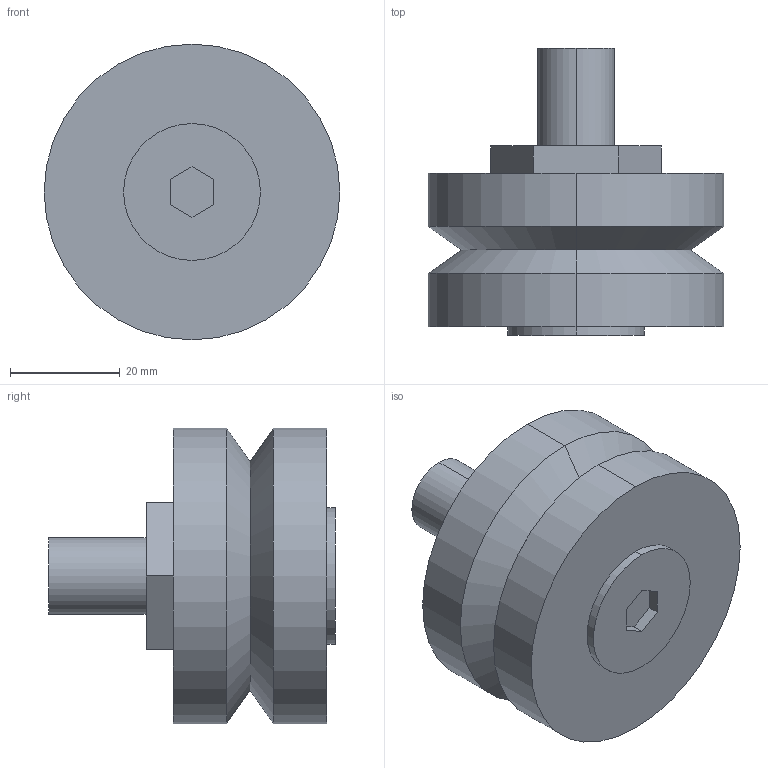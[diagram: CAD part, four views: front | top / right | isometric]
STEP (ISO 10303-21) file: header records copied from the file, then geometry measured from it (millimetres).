
FILE_DESCRIPTION(('STEP AP203'),'1');
FILE_NAME('bhj_54_c.stp','2021-09-29T05:30:20',('TraceParts'),('TraceParts S.A.'),'Spatial InterOp 3D',' ',' ');
FILE_SCHEMA(('CONFIG_CONTROL_DESIGN'));
Length unit declared in the file: millimetre
Products named in the file (1): 1
Bounding box: 54 x 52.4 x 54 mm (x, y, z)
Volume: 66584.5 mm3; surface area: 11555.8 mm2
Topology: 1 solids, 1 shells, 30 faces, 66 edges, 42 vertices
Faces by surface type: plane 18, cylinder 8, cone 4
Entity records: 864 total; most frequent: DIRECTION 146, CARTESIAN_POINT 139, ORIENTED_EDGE 132, EDGE_CURVE 66, AXIS2_PLACEMENT_3D 49, LINE 48, VECTOR 48, VERTEX_POINT 42
